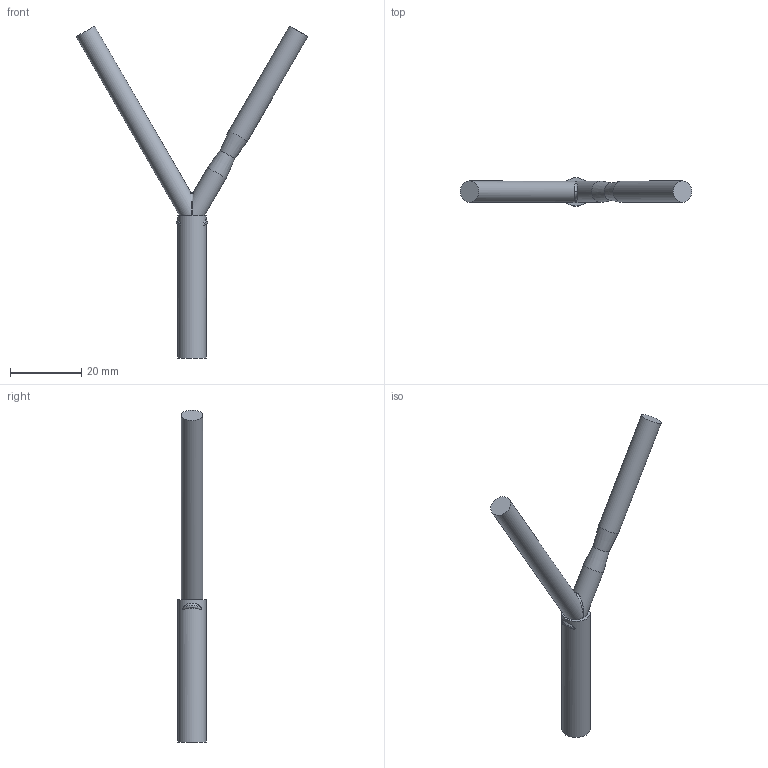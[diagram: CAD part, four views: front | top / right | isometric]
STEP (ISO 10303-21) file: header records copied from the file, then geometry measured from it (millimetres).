
FILE_DESCRIPTION(('Open CASCADE Model'),'2;1');
FILE_NAME('Open CASCADE Shape Model','2026-10-29T17:59:19',('Author'),( 'Open CASCADE'),'Open CASCADE STEP processor 7.9','Open CASCADE 7.9' ,'Unknown');
FILE_SCHEMA(('AUTOMOTIVE_DESIGN { 1 0 10303 214 1 1 1 1 }'));
Length unit declared in the file: millimetre
Products named in the file (1): Open CASCADE STEP translator 7.9 2
Bounding box: 65.2 x 8 x 93.46 mm (x, y, z)
Volume: 5260.9 mm3; surface area: 3287.9 mm2
Topology: 1 solids, 1 shells, 18 faces, 38 edges, 22 vertices
Faces by surface type: cylinder 6, plane 6, torus 2, bspline 2, revolution 2
Full cylindrical faces by diameter (mm): 6 x3, 8 x1
Entity records: 2398 total; most frequent: CARTESIAN_POINT 1696, DIRECTION 116, ORIENTED_EDGE 72, PCURVE 72, DEFINITIONAL_REPRESENTATION 72, LINE 39, VECTOR 39, B_SPLINE_CURVE_WITH_KNOTS 37
